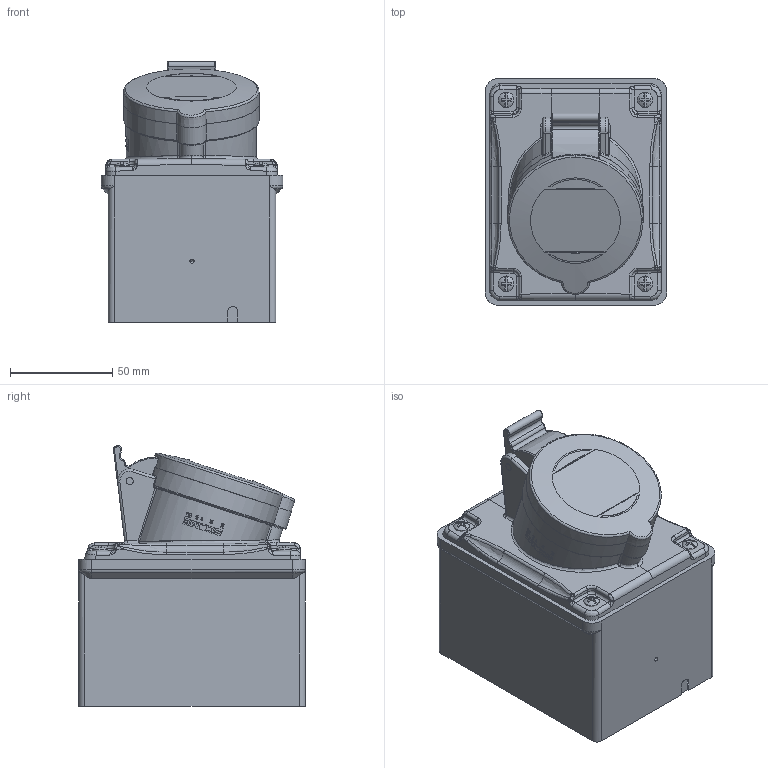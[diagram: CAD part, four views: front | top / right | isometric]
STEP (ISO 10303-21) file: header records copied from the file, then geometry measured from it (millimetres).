
FILE_DESCRIPTION(/* description */ (''),/* implementation_level */ '2;1');
FILE_NAME(/* name */ '4001937.stp',/* time_stamp */ '2017-05-09T03:47:06+02:00',/* author */ (''),/* organization */ (''),/* preprocessor_version */ 'ST-DEVELOPER v16',/* originating_system */ 'SIEMENS PLM Software NX 11.0',/* authorisation */ '');
FILE_SCHEMA (('AUTOMOTIVE_DESIGN { 1 0 10303 214 3 1 1 1 }'));
Products named in the file (1): 4001937_LINKEDEXT_jt
Bounding box: 89 x 111 x 127.67 mm (x, y, z)
Surface area: 112132.8 mm2 (no closed solid volume)
Topology: 0 solids, 47 shells, 539 faces, 1918 edges, 1340 vertices
Faces by surface type: cylinder 184, bspline 176, plane 125, torus 26, sphere 18, cone 10
Full cylindrical faces by diameter (mm): 0.998 x4, 4 x1, 7.6 x4
Entity records: 44454 total; most frequent: CARTESIAN_POINT 26075, ORIENTED_EDGE 2855, DIRECTION 2746, EDGE_CURVE 1849, VERTEX_POINT 1329, AXIS2_PLACEMENT_3D 1079, LINE 588, VECTOR 588
